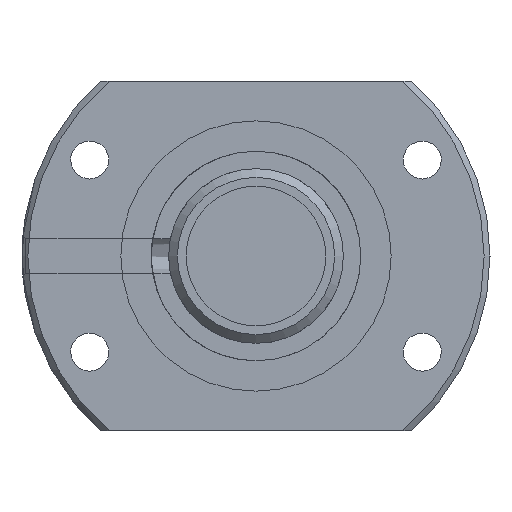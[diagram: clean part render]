
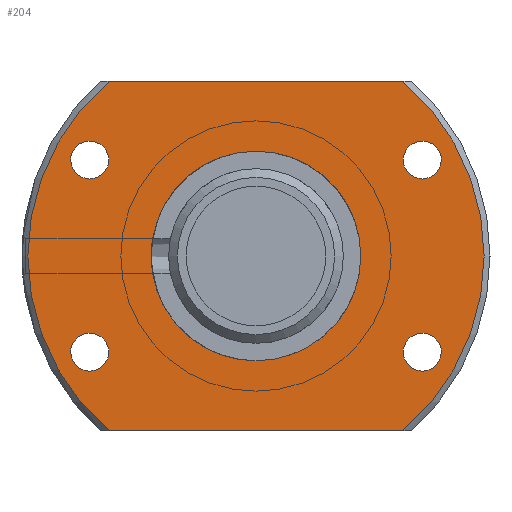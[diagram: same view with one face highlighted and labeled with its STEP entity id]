
A CAD part, left-side view. The second image highlights one B-rep face of the part: STEP entity #204.
In plain terms, the highlighted planar face has unit normal (-1, 0, 0).
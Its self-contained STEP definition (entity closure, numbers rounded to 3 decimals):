
#204 = ADVANCED_FACE( '', ( #311, #312, #313, #314, #315, #316 ), #317, .T. );
#311 = FACE_BOUND( '', #427, .T. );
#312 = FACE_OUTER_BOUND( '', #428, .T. );
#313 = FACE_BOUND( '', #429, .T. );
#314 = FACE_BOUND( '', #430, .T. );
#315 = FACE_BOUND( '', #431, .T. );
#316 = FACE_BOUND( '', #432, .T. );
#317 = PLANE( '', #433 );
#427 = EDGE_LOOP( '', ( #642 ) );
#428 = EDGE_LOOP( '', ( #643, #644, #645, #646 ) );
#429 = EDGE_LOOP( '', ( #647 ) );
#430 = EDGE_LOOP( '', ( #648 ) );
#431 = EDGE_LOOP( '', ( #649 ) );
#432 = EDGE_LOOP( '', ( #650 ) );
#433 = AXIS2_PLACEMENT_3D( '', #651, #652, #653 );
#642 = ORIENTED_EDGE( '', *, *, #718, .T. );
#643 = ORIENTED_EDGE( '', *, *, #738, .F. );
#644 = ORIENTED_EDGE( '', *, *, #703, .F. );
#645 = ORIENTED_EDGE( '', *, *, #709, .F. );
#646 = ORIENTED_EDGE( '', *, *, #739, .F. );
#647 = ORIENTED_EDGE( '', *, *, #695, .T. );
#648 = ORIENTED_EDGE( '', *, *, #697, .T. );
#649 = ORIENTED_EDGE( '', *, *, #699, .T. );
#650 = ORIENTED_EDGE( '', *, *, #701, .T. );
#651 = CARTESIAN_POINT( '', ( 0., 32.663, 0. ) );
#652 = DIRECTION( '', ( -1., 0., 0. ) );
#653 = DIRECTION( '', ( 0., 0., 1. ) );
#695 = EDGE_CURVE( '', #771, #771, #772, .T. );
#697 = EDGE_CURVE( '', #775, #775, #776, .T. );
#699 = EDGE_CURVE( '', #779, #779, #780, .T. );
#701 = EDGE_CURVE( '', #783, #783, #784, .T. );
#703 = EDGE_CURVE( '', #785, #788, #789, .T. );
#709 = EDGE_CURVE( '', #798, #785, #800, .T. );
#718 = EDGE_CURVE( '', #815, #815, #816, .T. );
#738 = EDGE_CURVE( '', #788, #849, #850, .T. );
#739 = EDGE_CURVE( '', #849, #798, #851, .T. );
#771 = VERTEX_POINT( '', #942 );
#772 = CIRCLE( '', #943, 2.75 );
#775 = VERTEX_POINT( '', #946 );
#776 = CIRCLE( '', #947, 2.75 );
#779 = VERTEX_POINT( '', #950 );
#780 = CIRCLE( '', #951, 2.75 );
#783 = VERTEX_POINT( '', #954 );
#784 = CIRCLE( '', #955, 2.75 );
#785 = VERTEX_POINT( '', #956 );
#788 = VERTEX_POINT( '', #962 );
#789 = CIRCLE( '', #963, 32.663 );
#798 = VERTEX_POINT( '', #979 );
#800 = LINE( '', #984, #985 );
#815 = VERTEX_POINT( '', #1039 );
#816 = CIRCLE( '', #1040, 15. );
#849 = VERTEX_POINT( '', #1112 );
#850 = LINE( '', #1113, #1114 );
#851 = CIRCLE( '', #1115, 32.663 );
#942 = CARTESIAN_POINT( '', ( 0., 23.816, -16.5 ) );
#943 = AXIS2_PLACEMENT_3D( '', #1162, #1163, #1164 );
#946 = CARTESIAN_POINT( '', ( 0., -23.816, -16.5 ) );
#947 = AXIS2_PLACEMENT_3D( '', #1168, #1169, #1170 );
#950 = CARTESIAN_POINT( '', ( 0., -23.816, 11. ) );
#951 = AXIS2_PLACEMENT_3D( '', #1174, #1175, #1176 );
#954 = CARTESIAN_POINT( '', ( 0., 23.816, 11. ) );
#955 = AXIS2_PLACEMENT_3D( '', #1180, #1181, #1182 );
#956 = CARTESIAN_POINT( '', ( 0., 21.02, -25. ) );
#962 = CARTESIAN_POINT( '', ( 0., 21.02, 25. ) );
#963 = AXIS2_PLACEMENT_3D( '', #1183, #1184, #1185 );
#979 = CARTESIAN_POINT( '', ( 0., -21.02, -25. ) );
#984 = CARTESIAN_POINT( '', ( 0., -33.6, -25. ) );
#985 = VECTOR( '', #1190, 1000. );
#1039 = CARTESIAN_POINT( '', ( 0., 0., -15. ) );
#1040 = AXIS2_PLACEMENT_3D( '', #1202, #1203, #1204 );
#1112 = CARTESIAN_POINT( '', ( 0., -21.02, 25. ) );
#1113 = CARTESIAN_POINT( '', ( 0., 33.6, 25. ) );
#1114 = VECTOR( '', #1246, 1000. );
#1115 = AXIS2_PLACEMENT_3D( '', #1247, #1248, #1249 );
#1162 = CARTESIAN_POINT( '', ( 0., 23.816, -13.75 ) );
#1163 = DIRECTION( '', ( 1., 0., 0. ) );
#1164 = DIRECTION( '', ( 0., 0., -1. ) );
#1168 = CARTESIAN_POINT( '', ( 0., -23.816, -13.75 ) );
#1169 = DIRECTION( '', ( 1., 0., 0. ) );
#1170 = DIRECTION( '', ( 0., 0., -1. ) );
#1174 = CARTESIAN_POINT( '', ( 0., -23.816, 13.75 ) );
#1175 = DIRECTION( '', ( 1., 0., 0. ) );
#1176 = DIRECTION( '', ( 0., 0., -1. ) );
#1180 = CARTESIAN_POINT( '', ( 0., 23.816, 13.75 ) );
#1181 = DIRECTION( '', ( 1., 0., 0. ) );
#1182 = DIRECTION( '', ( 0., 0., -1. ) );
#1183 = CARTESIAN_POINT( '', ( 0., 0., 0. ) );
#1184 = DIRECTION( '', ( 1., 0., 0. ) );
#1185 = DIRECTION( '', ( 0., 0., -1. ) );
#1190 = DIRECTION( '', ( 0., 1., 0. ) );
#1202 = CARTESIAN_POINT( '', ( 0., 0., 0. ) );
#1203 = DIRECTION( '', ( 1., 0., 0. ) );
#1204 = DIRECTION( '', ( 0., 0., -1. ) );
#1246 = DIRECTION( '', ( 0., -1., 0. ) );
#1247 = CARTESIAN_POINT( '', ( 0., 0., 0. ) );
#1248 = DIRECTION( '', ( 1., 0., 0. ) );
#1249 = DIRECTION( '', ( 0., 0., -1. ) );
